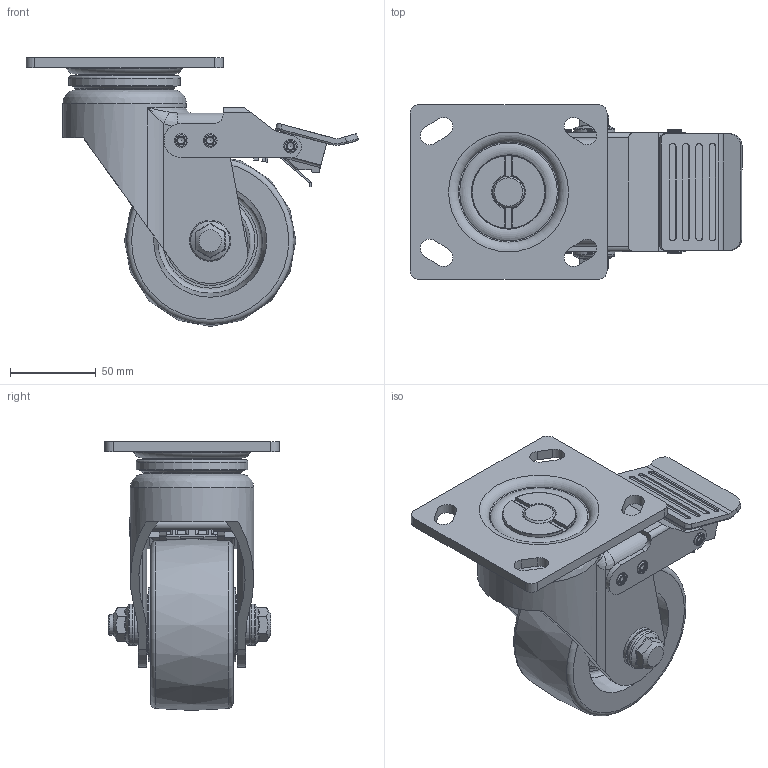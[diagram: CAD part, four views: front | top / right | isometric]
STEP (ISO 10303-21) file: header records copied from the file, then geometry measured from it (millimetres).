
FILE_DESCRIPTION((''),'2;1');
FILE_NAME('C:\Documents and Settings\Administrator\바탕 화면\3D STEP\GH-SERIES\GH-100\GH-100B-SF.stp','2010-12-27T14:24:35',('Administrator'),(''),'Autodesk Inventor 2009','Autodesk Inventor 2009','');
FILE_SCHEMA(('AUTOMOTIVE_DESIGN { 1 0 10303 214 1 1 1 1 }'));
Length unit declared in the file: millimetre
Products named in the file (1): GH-100B-SF
Bounding box: 193.77 x 102 x 156.88 mm (x, y, z)
Volume: 565820.6 mm3; surface area: 178203.4 mm2
Topology: 11 solids, 13 shells, 644 faces, 1667 edges, 1066 vertices
Faces by surface type: plane 252, cylinder 230, torus 69, bspline 58, cone 27, sphere 8
Full cylindrical faces by diameter (mm): 3 x1, 4 x6, 5 x1, 6 x3, 6.1 x10, 6.2 x2, 8 x6, 12 x1, 15 x2, 15.2 x2, 18.5 x2, 21.5 x1, 22 x1, 24 x4, 29.9 x1, 30.5 x2, 31 x1, 31.615 x2, 35 x2, 41 x1, 44 x2, 48.961 x2, 61 x1, 62 x1, 63.14 x1, 65.14 x1, 72 x1
Entity records: 21998 total; most frequent: CARTESIAN_POINT 7084, DIRECTION 3111, ORIENTED_EDGE 2886, EDGE_CURVE 1443, AXIS2_PLACEMENT_3D 1199, VERTEX_POINT 998, EDGE_LOOP 905, VECTOR 713
